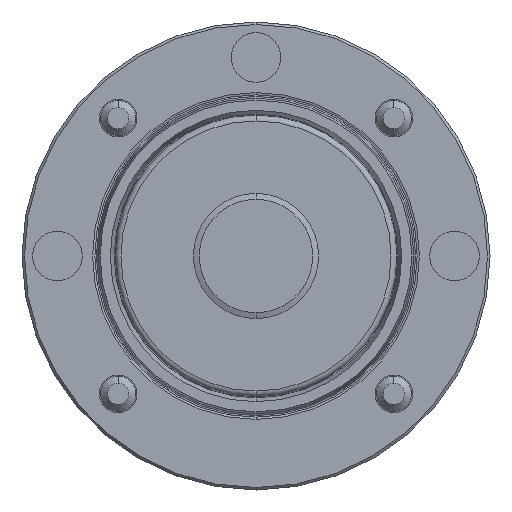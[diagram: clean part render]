
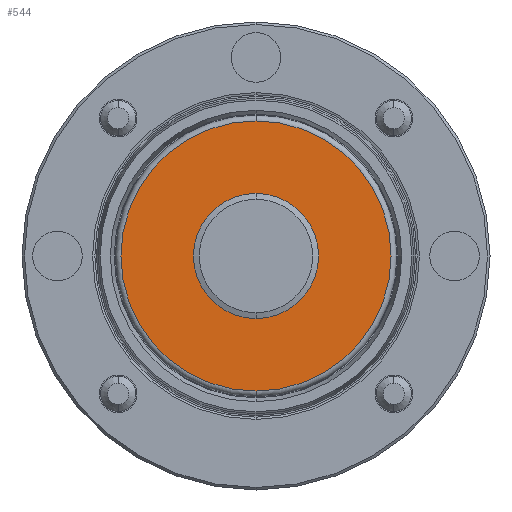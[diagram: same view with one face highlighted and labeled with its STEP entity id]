
A CAD part, front view. The second image highlights one B-rep face of the part: STEP entity #544.
In plain terms, the highlighted planar face has unit normal (0, -1, 0).
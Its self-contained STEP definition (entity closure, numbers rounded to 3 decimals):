
#177 = VERTEX_POINT ( 'NONE', #2651 ) ;
#179 = VERTEX_POINT ( 'NONE', #2652 ) ;
#196 = EDGE_CURVE ( 'NONE', #177, #179, #2674, .T. ) ;
#259 = VERTEX_POINT ( 'NONE', #2755 ) ;
#271 = EDGE_CURVE ( 'NONE', #4983, #259, #2841, .T. ) ;
#491 = EDGE_CURVE ( 'NONE', #179, #177, #3158, .T. ) ;
#493 = EDGE_CURVE ( 'NONE', #259, #4983, #3151, .T. ) ;
#494 = EDGE_LOOP ( 'NONE', ( #553, #537 ) ) ;
#495 = EDGE_LOOP ( 'NONE', ( #545, #558 ) ) ;
#537 = ORIENTED_EDGE ( 'NONE', *, *, #491, .T. ) ;
#544 = ADVANCED_FACE ( 'NONE', ( #3268, #3267 ), #3324, .F. ) ;
#545 = ORIENTED_EDGE ( 'NONE', *, *, #493, .T. ) ;
#553 = ORIENTED_EDGE ( 'NONE', *, *, #196, .T. ) ;
#558 = ORIENTED_EDGE ( 'NONE', *, *, #271, .T. ) ;
#2651 = CARTESIAN_POINT ( 'NONE',  ( 0., -11.7, 8.824 ) ) ;
#2652 = CARTESIAN_POINT ( 'NONE',  ( 0., -11.7, -8.824 ) ) ;
#2669 = DIRECTION ( 'NONE',  ( 0., 0., 1. ) ) ;
#2670 = DIRECTION ( 'NONE',  ( 0., 1., 0. ) ) ;
#2671 = CARTESIAN_POINT ( 'NONE',  ( 0., -11.7, 0. ) ) ;
#2672 = AXIS2_PLACEMENT_3D ( 'NONE', #2671, #2670, #2669 ) ;
#2674 = CIRCLE ( 'NONE', #2672, 8.824 ) ;
#2755 = CARTESIAN_POINT ( 'NONE',  ( 0., -11.7, 19.05 ) ) ;
#2785 = CARTESIAN_POINT ( 'NONE',  ( 0., -11.7, 0. ) ) ;
#2838 = DIRECTION ( 'NONE',  ( 0., 0., 1. ) ) ;
#2839 = DIRECTION ( 'NONE',  ( 0., -1., 0. ) ) ;
#2840 = AXIS2_PLACEMENT_3D ( 'NONE', #2785, #2839, #2838 ) ;
#2841 = CIRCLE ( 'NONE', #2840, 19.05 ) ;
#3151 = CIRCLE ( 'NONE', #3205, 19.05 ) ;
#3158 = CIRCLE ( 'NONE', #3201, 8.824 ) ;
#3194 = DIRECTION ( 'NONE',  ( 0., 0., 1. ) ) ;
#3198 = DIRECTION ( 'NONE',  ( 0., 0., 1. ) ) ;
#3199 = DIRECTION ( 'NONE',  ( 0., 1., 0. ) ) ;
#3200 = CARTESIAN_POINT ( 'NONE',  ( 0., -11.7, 0. ) ) ;
#3201 = AXIS2_PLACEMENT_3D ( 'NONE', #3200, #3199, #3198 ) ;
#3202 = CARTESIAN_POINT ( 'NONE',  ( 0., -11.7, 0. ) ) ;
#3205 = AXIS2_PLACEMENT_3D ( 'NONE', #3202, #3210, #3194 ) ;
#3210 = DIRECTION ( 'NONE',  ( 0., -1., 0. ) ) ;
#3267 = FACE_BOUND ( 'NONE', #494, .T. ) ;
#3268 = FACE_OUTER_BOUND ( 'NONE', #495, .T. ) ;
#3320 = DIRECTION ( 'NONE',  ( 0., 0., 1. ) ) ;
#3321 = DIRECTION ( 'NONE',  ( 0., 1., 0. ) ) ;
#3322 = CARTESIAN_POINT ( 'NONE',  ( 19.85, -11.7, 0. ) ) ;
#3323 = AXIS2_PLACEMENT_3D ( 'NONE', #3322, #3321, #3320 ) ;
#3324 = PLANE ( 'NONE',  #3323 ) ;
#4983 = VERTEX_POINT ( 'NONE', #6956 ) ;
#6956 = CARTESIAN_POINT ( 'NONE',  ( 0., -11.7, -19.05 ) ) ;
